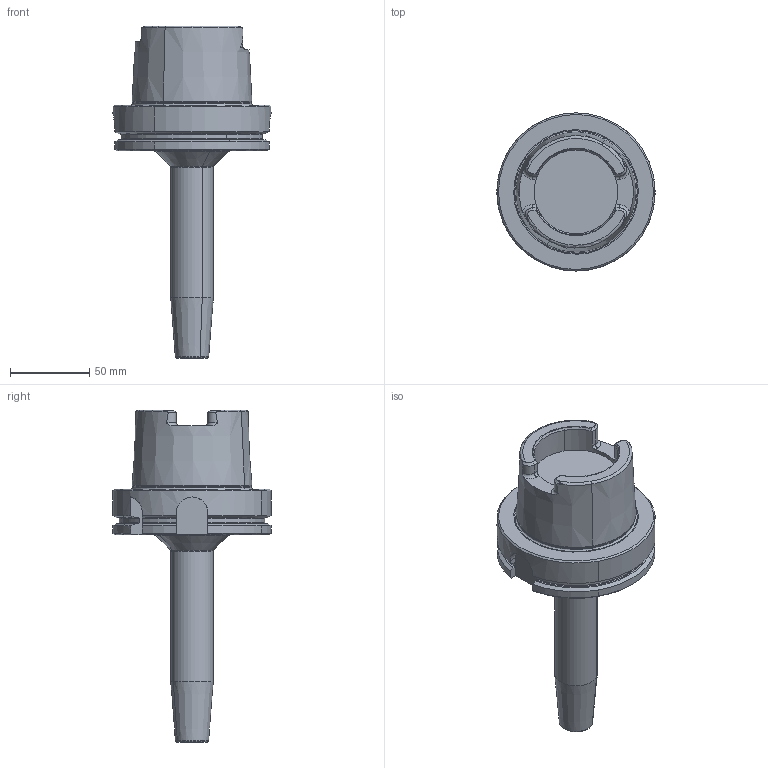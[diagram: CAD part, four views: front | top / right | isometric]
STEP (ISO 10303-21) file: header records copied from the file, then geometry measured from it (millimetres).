
FILE_DESCRIPTION(('CATIA V5 STEP','CAx-IF Rec.Pracs.--- Model Styling and Organization---1.2---2011-12-15'),'2;1');
FILE_NAME('\\nas01\drv1\utils\eitdev\rte\eit\transmagicconvert\db\out\4504229 L.stp','2014-04-02T09:09:23+00:00',('none'),('none'),'CATIA Version 5 Release 21 SP 5 (IN-10)','CATIA V5 STEP AP214','none');
FILE_SCHEMA(('AUTOMOTIVE_DESIGN { 1 0 10303 214 1 1 1 1 }'));
Length unit declared in the file: millimetre
Products named in the file (1): 60967236_0 Holder-Tool HSK A 100 SRKIN 6X160
Bounding box: 99.99 x 100 x 210 mm (x, y, z)
Volume: 460789.2 mm3; surface area: 49261.7 mm2
Topology: 1 solids, 1 shells, 139 faces, 354 edges, 220 vertices
Faces by surface type: plane 37, cone 37, cylinder 33, torus 32
Entity records: 4232 total; most frequent: CARTESIAN_POINT 1255, ORIENTED_EDGE 708, DIRECTION 445, EDGE_CURVE 354, AXIS2_PLACEMENT_3D 244, VERTEX_POINT 220, CIRCLE 161, EDGE_LOOP 142
